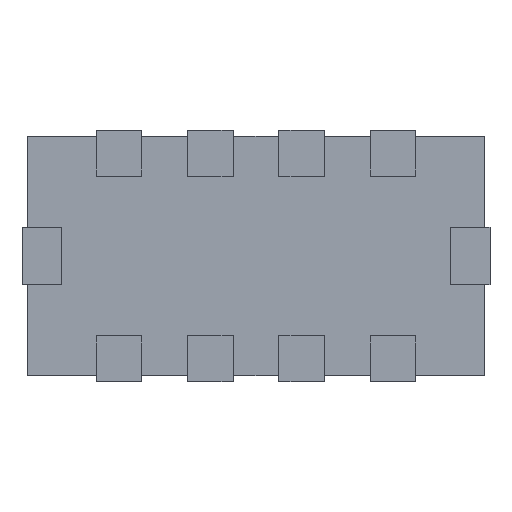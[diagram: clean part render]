
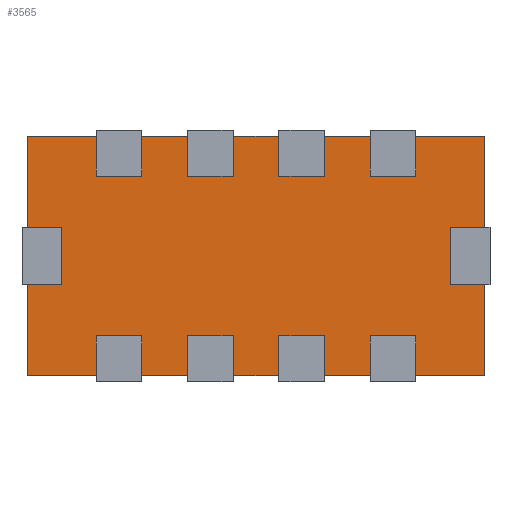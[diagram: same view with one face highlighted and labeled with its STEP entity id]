
A CAD part, front view. The second image highlights one B-rep face of the part: STEP entity #3565.
In plain terms, the highlighted planar face has unit normal (0, -1, 0).
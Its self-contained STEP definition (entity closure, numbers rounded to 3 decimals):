
#3418 = CARTESIAN_POINT ( 'NONE',  ( 2., 0.05, 1.05 ) ) ;
#3419 = VERTEX_POINT ( 'NONE', #3418 ) ;
#3420 = CARTESIAN_POINT ( 'NONE',  ( 2., 0.05, -1.05 ) ) ;
#3421 = VERTEX_POINT ( 'NONE', #3420 ) ;
#3422 = CARTESIAN_POINT ( 'NONE',  ( 2., 0.05, 1.05 ) ) ;
#3423 = DIRECTION ( 'NONE',  ( 0., 0., -1. ) ) ;
#3424 = VECTOR ( 'NONE', #3423, 1000. ) ;
#3425 = LINE ( 'NONE', #3422, #3424 ) ;
#3426 = EDGE_CURVE ( 'NONE', #3419, #3421, #3425, .T. ) ;
#3458 = CARTESIAN_POINT ( 'NONE',  ( -2., 0.05, -1.05 ) ) ;
#3459 = VERTEX_POINT ( 'NONE', #3458 ) ;
#3460 = CARTESIAN_POINT ( 'NONE',  ( -2., 0.05, -1.05 ) ) ;
#3461 = DIRECTION ( 'NONE',  ( -1., 0., 0. ) ) ;
#3462 = VECTOR ( 'NONE', #3461, 1000. ) ;
#3463 = LINE ( 'NONE', #3460, #3462 ) ;
#3464 = EDGE_CURVE ( 'NONE', #3421, #3459, #3463, .T. ) ;
#3489 = CARTESIAN_POINT ( 'NONE',  ( -2., 0.05, 1.05 ) ) ;
#3490 = VERTEX_POINT ( 'NONE', #3489 ) ;
#3491 = CARTESIAN_POINT ( 'NONE',  ( -2., 0.05, 1.05 ) ) ;
#3492 = DIRECTION ( 'NONE',  ( 0., 0., 1. ) ) ;
#3493 = VECTOR ( 'NONE', #3492, 1000. ) ;
#3494 = LINE ( 'NONE', #3491, #3493 ) ;
#3495 = EDGE_CURVE ( 'NONE', #3459, #3490, #3494, .T. ) ;
#3520 = CARTESIAN_POINT ( 'NONE',  ( -2., 0.05, 1.05 ) ) ;
#3521 = DIRECTION ( 'NONE',  ( 1., 0., 0. ) ) ;
#3522 = VECTOR ( 'NONE', #3521, 1000. ) ;
#3523 = LINE ( 'NONE', #3520, #3522 ) ;
#3524 = EDGE_CURVE ( 'NONE', #3490, #3419, #3523, .T. ) ;
#3554 = ORIENTED_EDGE ( 'NONE', *, *, #3426, .F. ) ;
#3555 = ORIENTED_EDGE ( 'NONE', *, *, #3524, .F. ) ;
#3556 = ORIENTED_EDGE ( 'NONE', *, *, #3495, .F. ) ;
#3557 = ORIENTED_EDGE ( 'NONE', *, *, #3464, .F. ) ;
#3558 = EDGE_LOOP ( 'NONE', ( #3554, #3555, #3556, #3557 ) ) ;
#3559 = FACE_OUTER_BOUND ( 'NONE', #3558, .T. ) ;
#3560 = CARTESIAN_POINT ( 'NONE',  ( 0., 0.05, 0. ) ) ;
#3561 = DIRECTION ( 'NONE',  ( 0., -1., 0. ) ) ;
#3562 = DIRECTION ( 'NONE',  ( 0., 0., -1. ) ) ;
#3563 = AXIS2_PLACEMENT_3D ( 'NONE', #3560, #3561, #3562 ) ;
#3564 = PLANE ( 'NONE', #3563 ) ;
#3565 = ADVANCED_FACE ( 'NONE', ( #3559 ), #3564, .T. ) ;
